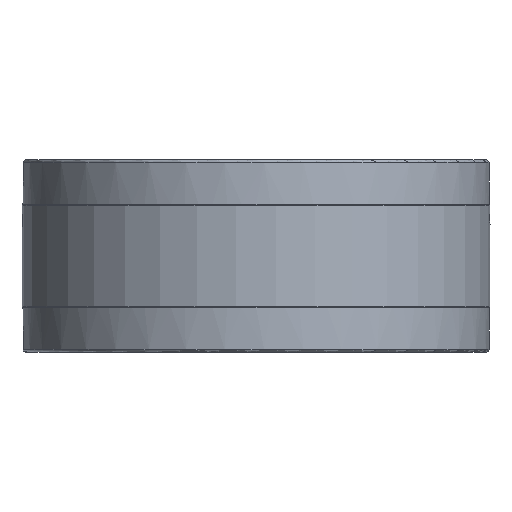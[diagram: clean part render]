
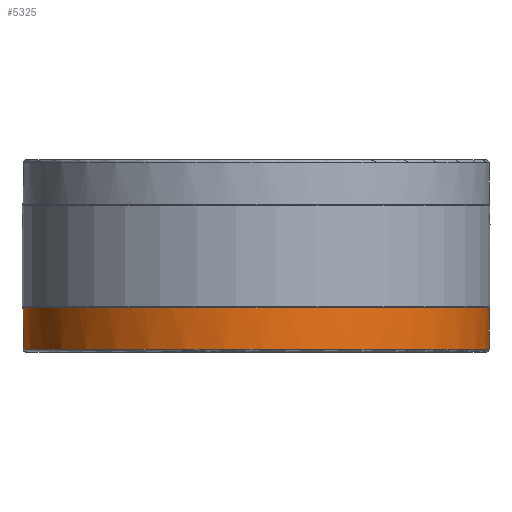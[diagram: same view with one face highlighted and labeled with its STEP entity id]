
A CAD part, front view. The second image highlights one B-rep face of the part: STEP entity #5325.
In plain terms, the highlighted cylindrical face has radius 72.5 mm (diameter 145 mm), a full revolution.
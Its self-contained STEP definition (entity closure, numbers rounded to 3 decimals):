
#3355=ELLIPSE('',#21364,102.53,72.5);
#3356=ELLIPSE('',#21366,102.53,72.5);
#3621=CYLINDRICAL_SURFACE('',#21367,72.5);
#5325=ADVANCED_FACE('',(#9483,#9484),#3621,.T.);
#6671=CIRCLE('',#21362,72.5);
#6672=CIRCLE('',#21363,72.5);
#6673=CIRCLE('',#21365,72.5);
#7719=LINE('',#41774,#8791);
#7721=LINE('',#41788,#8793);
#8791=VECTOR('',#25697,1.);
#8793=VECTOR('',#25699,1.);
#9483=FACE_BOUND('',#10828,.T.);
#9484=FACE_BOUND('',#10829,.T.);
#10828=EDGE_LOOP('',(#15050));
#10829=EDGE_LOOP('',(#15051,#15052,#15053,#15054,#15055,#15056));
#15050=ORIENTED_EDGE('',*,*,#19178,.T.);
#15051=ORIENTED_EDGE('',*,*,#19179,.T.);
#15052=ORIENTED_EDGE('',*,*,#19119,.T.);
#15053=ORIENTED_EDGE('',*,*,#19180,.T.);
#15054=ORIENTED_EDGE('',*,*,#19181,.F.);
#15055=ORIENTED_EDGE('',*,*,#19182,.T.);
#15056=ORIENTED_EDGE('',*,*,#19123,.T.);
#16935=VERTEX_POINT('',#41773);
#16936=VERTEX_POINT('',#41775);
#16939=VERTEX_POINT('',#41787);
#16940=VERTEX_POINT('',#41789);
#16992=VERTEX_POINT('',#42668);
#16993=VERTEX_POINT('',#42671);
#16994=VERTEX_POINT('',#42673);
#19119=EDGE_CURVE('',#16936,#16935,#7719,.T.);
#19123=EDGE_CURVE('',#16940,#16939,#7721,.T.);
#19178=EDGE_CURVE('',#16992,#16992,#6671,.T.);
#19179=EDGE_CURVE('',#16939,#16936,#6672,.T.);
#19180=EDGE_CURVE('',#16935,#16993,#3355,.T.);
#19181=EDGE_CURVE('',#16994,#16993,#6673,.T.);
#19182=EDGE_CURVE('',#16994,#16940,#3356,.T.);
#21362=AXIS2_PLACEMENT_3D('',#42667,#25773,#25774);
#21363=AXIS2_PLACEMENT_3D('',#42669,#25775,#25776);
#21364=AXIS2_PLACEMENT_3D('',#42670,#25777,#25778);
#21365=AXIS2_PLACEMENT_3D('',#42672,#25779,#25780);
#21366=AXIS2_PLACEMENT_3D('',#42674,#25781,#25782);
#21367=AXIS2_PLACEMENT_3D('',#42675,#25783,#25784);
#25697=DIRECTION('',(0.,0.,1.));
#25699=DIRECTION('',(0.,0.,-1.));
#25773=DIRECTION('',(0.,0.,1.));
#25774=DIRECTION('',(1.,0.,0.));
#25775=DIRECTION('',(0.,0.,-1.));
#25776=DIRECTION('',(-1.,0.,0.));
#25777=DIRECTION('',(0.,0.707,-0.707));
#25778=DIRECTION('',(0.,-0.707,-0.707));
#25779=DIRECTION('',(0.,0.,1.));
#25780=DIRECTION('',(1.,0.,0.));
#25781=DIRECTION('',(0.,0.707,-0.707));
#25782=DIRECTION('',(0.,-0.707,-0.707));
#25783=DIRECTION('',(0.,0.,-1.));
#25784=DIRECTION('',(-1.,0.,0.));
#41773=CARTESIAN_POINT('',(18.875,70.,-15.85));
#41774=CARTESIAN_POINT('',(18.875,70.,30.));
#41775=CARTESIAN_POINT('',(18.875,70.,-16.55));
#41787=CARTESIAN_POINT('',(-18.875,70.,-16.55));
#41788=CARTESIAN_POINT('',(-18.875,70.,30.));
#41789=CARTESIAN_POINT('',(-18.875,70.,-15.85));
#42667=CARTESIAN_POINT('',(0.,0.,-29.));
#42668=CARTESIAN_POINT('',(72.5,0.,-29.));
#42669=CARTESIAN_POINT('',(0.,0.,-16.55));
#42670=CARTESIAN_POINT('',(0.,0.,-85.85));
#42671=CARTESIAN_POINT('',(19.778,69.75,-16.1));
#42672=CARTESIAN_POINT('',(0.,0.,-16.1));
#42673=CARTESIAN_POINT('',(-19.778,69.75,-16.1));
#42674=CARTESIAN_POINT('',(0.,0.,-85.85));
#42675=CARTESIAN_POINT('',(0.,0.,30.));
